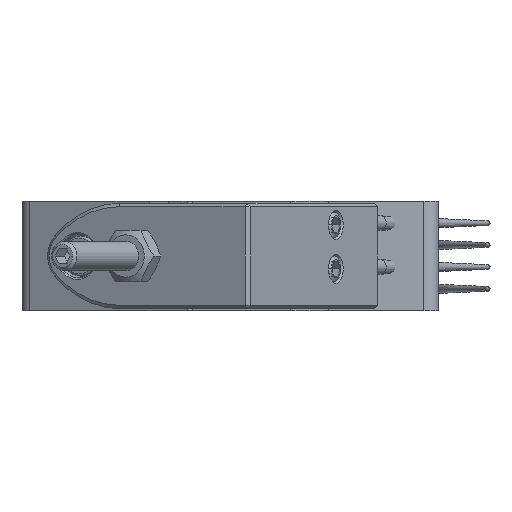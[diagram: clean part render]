
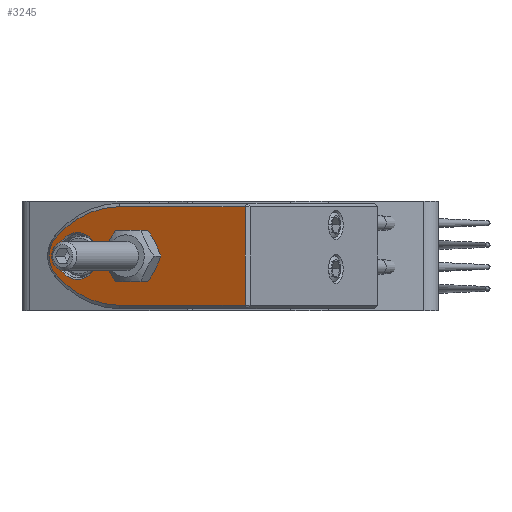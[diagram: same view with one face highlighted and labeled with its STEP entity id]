
A CAD part, left-side view. The second image highlights one B-rep face of the part: STEP entity #3245.
In plain terms, the highlighted planar face has unit normal (-0.866, 0.5, 0) as drawn and (0, -1, 0) by its records, which use the part's own axes.
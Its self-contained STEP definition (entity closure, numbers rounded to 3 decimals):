
#273=LINE('',#5457,#512);
#274=LINE('',#5459,#513);
#275=LINE('',#5466,#514);
#512=VECTOR('',#4360,10.);
#513=VECTOR('',#4361,10.);
#514=VECTOR('',#4368,10.);
#683=FACE_BOUND('',#1031,.T.);
#684=FACE_BOUND('',#1032,.T.);
#815=FACE_OUTER_BOUND('',#1030,.T.);
#1030=EDGE_LOOP('',(#2516,#2517,#2518,#2519,#2520,#2521));
#1031=EDGE_LOOP('',(#2522));
#1032=EDGE_LOOP('',(#2523));
#1212=CIRCLE('',#3651,2.9);
#1213=CIRCLE('',#3659,14.32);
#1214=CIRCLE('',#3660,3.5);
#1215=CIRCLE('',#3661,14.32);
#1216=CIRCLE('',#3662,3.2);
#1431=VERTEX_POINT('',#5415);
#1438=VERTEX_POINT('',#5455);
#1439=VERTEX_POINT('',#5456);
#1440=VERTEX_POINT('',#5458);
#1441=VERTEX_POINT('',#5460);
#1442=VERTEX_POINT('',#5462);
#1443=VERTEX_POINT('',#5464);
#1444=VERTEX_POINT('',#5467);
#1799=EDGE_CURVE('',#1431,#1431,#1212,.T.);
#1813=EDGE_CURVE('',#1438,#1439,#273,.T.);
#1814=EDGE_CURVE('',#1440,#1438,#274,.T.);
#1815=EDGE_CURVE('',#1441,#1440,#1213,.T.);
#1816=EDGE_CURVE('',#1442,#1441,#1214,.T.);
#1817=EDGE_CURVE('',#1443,#1442,#1215,.T.);
#1818=EDGE_CURVE('',#1439,#1443,#275,.T.);
#1819=EDGE_CURVE('',#1444,#1444,#1216,.T.);
#2516=ORIENTED_EDGE('',*,*,#1813,.F.);
#2517=ORIENTED_EDGE('',*,*,#1814,.F.);
#2518=ORIENTED_EDGE('',*,*,#1815,.F.);
#2519=ORIENTED_EDGE('',*,*,#1816,.F.);
#2520=ORIENTED_EDGE('',*,*,#1817,.F.);
#2521=ORIENTED_EDGE('',*,*,#1818,.F.);
#2522=ORIENTED_EDGE('',*,*,#1819,.F.);
#2523=ORIENTED_EDGE('',*,*,#1799,.T.);
#2900=PLANE('',#3658);
#3245=ADVANCED_FACE('',(#815,#683,#684),#2900,.T.);
#3651=AXIS2_PLACEMENT_3D('',#5416,#4337,#4338);
#3658=AXIS2_PLACEMENT_3D('',#5454,#4358,#4359);
#3659=AXIS2_PLACEMENT_3D('',#5461,#4362,#4363);
#3660=AXIS2_PLACEMENT_3D('',#5463,#4364,#4365);
#3661=AXIS2_PLACEMENT_3D('',#5465,#4366,#4367);
#3662=AXIS2_PLACEMENT_3D('',#5468,#4369,#4370);
#4337=DIRECTION('center_axis',(0.,1.,0.));
#4338=DIRECTION('ref_axis',(-1.,0.,0.));
#4358=DIRECTION('center_axis',(0.,-1.,0.));
#4359=DIRECTION('ref_axis',(0.,0.,-1.));
#4360=DIRECTION('',(0.,0.,-1.));
#4361=DIRECTION('',(1.,0.,0.));
#4362=DIRECTION('center_axis',(0.,1.,0.));
#4363=DIRECTION('ref_axis',(0.017,0.,1.));
#4364=DIRECTION('center_axis',(0.,1.,0.));
#4365=DIRECTION('ref_axis',(-0.715,0.,0.699));
#4366=DIRECTION('center_axis',(0.,1.,0.));
#4367=DIRECTION('ref_axis',(-0.86,0.,-0.511));
#4368=DIRECTION('',(-1.,0.,0.));
#4369=DIRECTION('center_axis',(0.,-1.,0.));
#4370=DIRECTION('ref_axis',(-1.,0.,0.));
#5415=CARTESIAN_POINT('',(8.761,3.5,0.));
#5416=CARTESIAN_POINT('Origin',(5.861,3.5,0.));
#5454=CARTESIAN_POINT('Origin',(23.361,3.5,0.));
#5455=CARTESIAN_POINT('',(22.861,3.5,6.75));
#5456=CARTESIAN_POINT('',(22.861,3.5,-6.75));
#5457=CARTESIAN_POINT('',(22.861,3.5,0.));
#5458=CARTESIAN_POINT('',(2.85,3.5,6.75));
#5459=CARTESIAN_POINT('',(17.368,3.5,6.75));
#5460=CARTESIAN_POINT('',(-7.131,3.5,2.448));
#5461=CARTESIAN_POINT('Origin',(3.103,3.5,-7.567));
#5462=CARTESIAN_POINT('',(-7.131,3.5,-2.448));
#5463=CARTESIAN_POINT('Origin',(-4.63,3.5,0.));
#5464=CARTESIAN_POINT('',(2.85,3.5,-6.75));
#5465=CARTESIAN_POINT('Origin',(3.103,3.5,7.567));
#5466=CARTESIAN_POINT('',(17.368,3.5,-6.75));
#5467=CARTESIAN_POINT('',(-0.439,3.5,0.));
#5468=CARTESIAN_POINT('Origin',(-3.639,3.5,0.));
